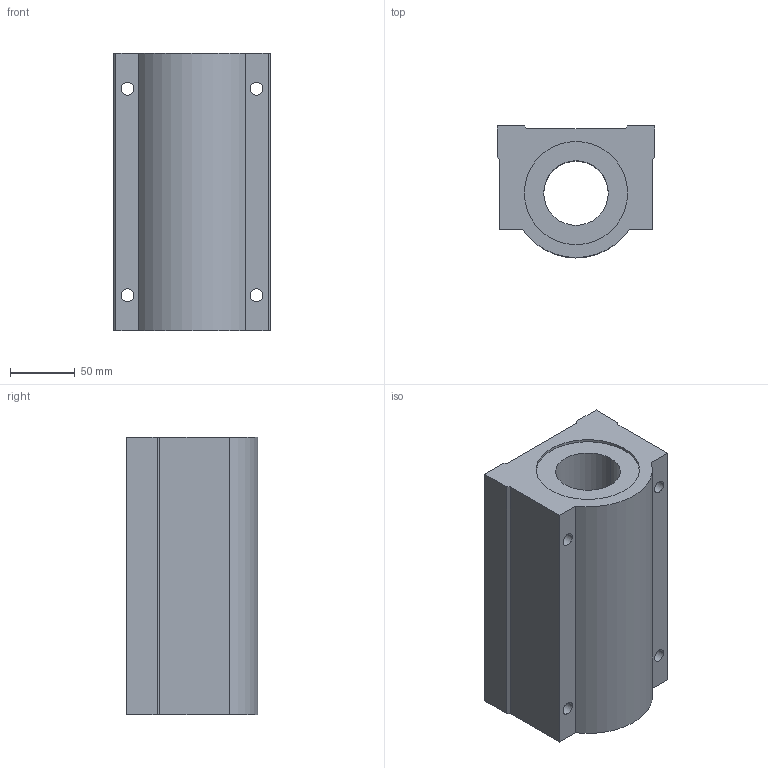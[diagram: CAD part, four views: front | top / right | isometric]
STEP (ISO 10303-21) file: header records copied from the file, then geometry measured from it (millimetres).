
FILE_DESCRIPTION((''),'2;1');
FILE_NAME('C:\Documents and Settings\ｿﾀﾀ蠑ｷ1\ｹﾙﾅﾁ ﾈｭｸ饅\ｺﾎﾇｰﾆﾄﾀﾏ\ﾁｦﾇｰ\SC__WUUN\SC50WUUN.stp','2005-06-22T11:04:52',('ｿﾀﾀ蠑ｷ1'),(''),'Autodesk Inventor 9','Autodesk Inventor 9','');
FILE_SCHEMA(('AUTOMOTIVE_DESIGN { 1 0 10303 214 1 1 1 1 }'));
Length unit declared in the file: millimetre
Products named in the file (1): SC__UUN
Bounding box: 122 x 102 x 215 mm (x, y, z)
Volume: 1833470.4 mm3; surface area: 150868.4 mm2
Topology: 1 solids, 1 shells, 32 faces, 84 edges, 56 vertices
Faces by surface type: plane 17, bspline 8, cylinder 7
Entity records: 1145 total; most frequent: CARTESIAN_POINT 309, ORIENTED_EDGE 168, DIRECTION 164, EDGE_CURVE 84, VERTEX_POINT 56, AXIS2_PLACEMENT_3D 55, VECTOR 54, LINE 54
